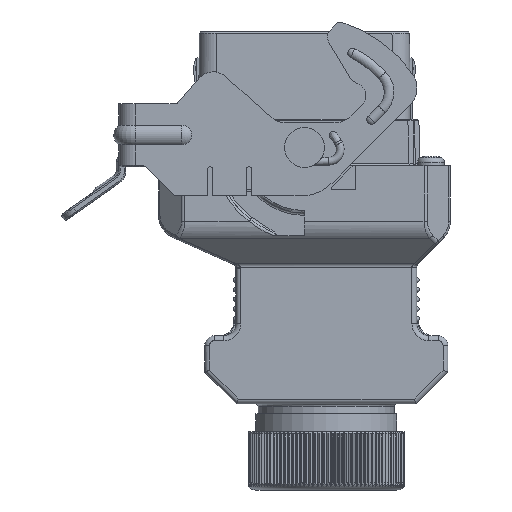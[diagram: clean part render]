
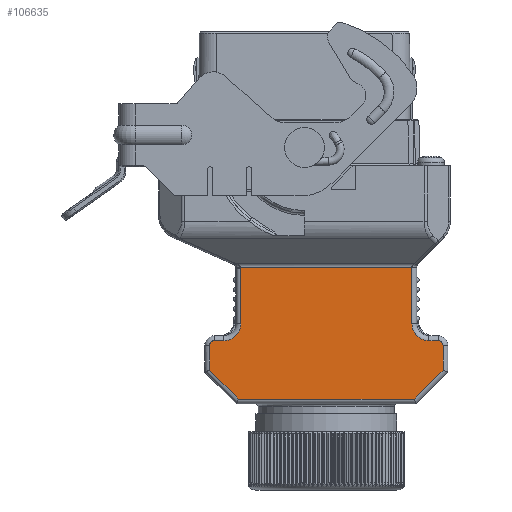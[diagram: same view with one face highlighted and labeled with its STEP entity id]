
A CAD part, front view. The second image highlights one B-rep face of the part: STEP entity #106635.
In plain terms, the highlighted planar face has unit normal (0, -1, 0).
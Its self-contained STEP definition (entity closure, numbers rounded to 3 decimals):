
#1341 = DIRECTION ( 'NONE',  ( 0., 0., -1. ) ) ;
#2073 = ORIENTED_EDGE ( 'NONE', *, *, #25516, .T. ) ;
#5650 = DIRECTION ( 'NONE',  ( 0., 0., -1. ) ) ;
#6090 = ORIENTED_EDGE ( 'NONE', *, *, #73304, .T. ) ;
#6415 = CARTESIAN_POINT ( 'NONE',  ( 27.5, -16., -64.5 ) ) ;
#9295 = CIRCLE ( 'NONE', #127301, 2. ) ;
#10883 = CIRCLE ( 'NONE', #38992, 3.5 ) ;
#11653 = CARTESIAN_POINT ( 'NONE',  ( -19.5, -16., -69.586 ) ) ;
#12391 = CARTESIAN_POINT ( 'NONE',  ( 22.586, -16., -75.5 ) ) ;
#12704 = AXIS2_PLACEMENT_3D ( 'NONE', #6415, #93084, #139784 ) ;
#15113 = CARTESIAN_POINT ( 'NONE',  ( -13.586, -16., -75.5 ) ) ;
#18253 = CIRCLE ( 'NONE', #12704, 1. ) ;
#18556 = VECTOR ( 'NONE', #66779, 1000. ) ;
#19211 = LINE ( 'NONE', #73458, #42892 ) ;
#19270 = EDGE_CURVE ( 'NONE', #88183, #133837, #9295, .T. ) ;
#20602 = CARTESIAN_POINT ( 'NONE',  ( -19.5, -16., -64.5 ) ) ;
#21284 = CARTESIAN_POINT ( 'NONE',  ( -19.5, -16., -70. ) ) ;
#22349 = CARTESIAN_POINT ( 'NONE',  ( -13.1, -16., -48.652 ) ) ;
#24819 = VERTEX_POINT ( 'NONE', #15113 ) ;
#24853 = VECTOR ( 'NONE', #28014, 1000. ) ;
#25516 = EDGE_CURVE ( 'NONE', #101120, #100735, #115963, .T. ) ;
#27318 = CARTESIAN_POINT ( 'NONE',  ( 29.343, -16., -68.743 ) ) ;
#27326 = AXIS2_PLACEMENT_3D ( 'NONE', #44558, #73804, #52601 ) ;
#28014 = DIRECTION ( 'NONE',  ( 1., 0., 0. ) ) ;
#28707 = DIRECTION ( 'NONE',  ( 0.707, 0., 0.707 ) ) ;
#29312 = VERTEX_POINT ( 'NONE', #99841 ) ;
#29866 = VERTEX_POINT ( 'NONE', #11653 ) ;
#30154 = EDGE_LOOP ( 'NONE', ( #31475, #136021, #84852, #132778, #136579, #45702, #124258, #103025, #2073, #69488, #134786, #55045, #62827, #101938, #73748, #6090 ) ) ;
#31346 = DIRECTION ( 'NONE',  ( 0., 0., 1. ) ) ;
#31475 = ORIENTED_EDGE ( 'NONE', *, *, #140288, .T. ) ;
#33086 = PLANE ( 'NONE',  #83705 ) ;
#34611 = EDGE_CURVE ( 'NONE', #108050, #77253, #134180, .T. ) ;
#36078 = CARTESIAN_POINT ( 'NONE',  ( 25.6, -16., -63.5 ) ) ;
#36909 = CARTESIAN_POINT ( 'NONE',  ( 22.1, -16., -48.406 ) ) ;
#37144 = CARTESIAN_POINT ( 'NONE',  ( -18.5, -16., -64.5 ) ) ;
#37431 = VECTOR ( 'NONE', #137107, 1000. ) ;
#37476 = CARTESIAN_POINT ( 'NONE',  ( -14.1, -16., -48.406 ) ) ;
#37606 = EDGE_CURVE ( 'NONE', #29312, #133438, #18253, .T. ) ;
#37726 = CARTESIAN_POINT ( 'NONE',  ( -13.115, -16., -48.406 ) ) ;
#38992 = AXIS2_PLACEMENT_3D ( 'NONE', #101050, #89302, #112790 ) ;
#39404 = DIRECTION ( 'NONE',  ( -1., 0., 0. ) ) ;
#40246 = CARTESIAN_POINT ( 'NONE',  ( -15.1, -16., -48.652 ) ) ;
#42681 = LINE ( 'NONE', #21284, #73066 ) ;
#42892 = VECTOR ( 'NONE', #31346, 1000. ) ;
#43113 = DIRECTION ( 'NONE',  ( 0., 0., -1. ) ) ;
#44025 = LINE ( 'NONE', #36078, #18556 ) ;
#44153 = VERTEX_POINT ( 'NONE', #22349 ) ;
#44558 = CARTESIAN_POINT ( 'NONE',  ( 25.6, -16., -60. ) ) ;
#45702 = ORIENTED_EDGE ( 'NONE', *, *, #97732, .T. ) ;
#47030 = FACE_OUTER_BOUND ( 'NONE', #30154, .T. ) ;
#52601 = DIRECTION ( 'NONE',  ( 0., 0., -1. ) ) ;
#53053 = CARTESIAN_POINT ( 'NONE',  ( 27.5, -16., -63.5 ) ) ;
#55045 = ORIENTED_EDGE ( 'NONE', *, *, #129363, .T. ) ;
#56600 = VECTOR ( 'NONE', #39404, 1000. ) ;
#57672 = CIRCLE ( 'NONE', #27326, 3.5 ) ;
#59820 = VERTEX_POINT ( 'NONE', #139149 ) ;
#60461 = EDGE_CURVE ( 'NONE', #59820, #108050, #127652, .T. ) ;
#61570 = CARTESIAN_POINT ( 'NONE',  ( 22.1, -16., -48.41 ) ) ;
#62827 = ORIENTED_EDGE ( 'NONE', *, *, #66960, .T. ) ;
#63327 = CARTESIAN_POINT ( 'NONE',  ( -1.743, -16., -87.343 ) ) ;
#64326 = EDGE_CURVE ( 'NONE', #113977, #59820, #10883, .T. ) ;
#66155 = LINE ( 'NONE', #82285, #37431 ) ;
#66181 = DIRECTION ( 'NONE',  ( 0., -1., 0. ) ) ;
#66779 = DIRECTION ( 'NONE',  ( -1., 0., 0. ) ) ;
#66960 = EDGE_CURVE ( 'NONE', #68124, #84055, #57672, .T. ) ;
#68124 = VERTEX_POINT ( 'NONE', #94429 ) ;
#69488 = ORIENTED_EDGE ( 'NONE', *, *, #126402, .T. ) ;
#70441 = AXIS2_PLACEMENT_3D ( 'NONE', #40246, #74719, #106864 ) ;
#70470 = DIRECTION ( 'NONE',  ( 0., 1., 0. ) ) ;
#73066 = VECTOR ( 'NONE', #43113, 1000. ) ;
#73304 = EDGE_CURVE ( 'NONE', #133837, #116141, #74255, .T. ) ;
#73458 = CARTESIAN_POINT ( 'NONE',  ( 28.5, -16., -64.5 ) ) ;
#73748 = ORIENTED_EDGE ( 'NONE', *, *, #19270, .T. ) ;
#73804 = DIRECTION ( 'NONE',  ( 0., 1., 0. ) ) ;
#74227 = DIRECTION ( 'NONE',  ( 0., 0., -1. ) ) ;
#74255 = LINE ( 'NONE', #37476, #101303 ) ;
#74719 = DIRECTION ( 'NONE',  ( 0., 1., 0. ) ) ;
#77253 = VERTEX_POINT ( 'NONE', #20602 ) ;
#78077 = VECTOR ( 'NONE', #85100, 1000. ) ;
#80608 = CARTESIAN_POINT ( 'NONE',  ( 23., -16., -75.5 ) ) ;
#82285 = CARTESIAN_POINT ( 'NONE',  ( 22.1, -16., -48. ) ) ;
#83705 = AXIS2_PLACEMENT_3D ( 'NONE', #88918, #66181, #1341 ) ;
#84055 = VERTEX_POINT ( 'NONE', #95468 ) ;
#84852 = ORIENTED_EDGE ( 'NONE', *, *, #64326, .T. ) ;
#85100 = DIRECTION ( 'NONE',  ( 0.707, 0., -0.707 ) ) ;
#87821 = AXIS2_PLACEMENT_3D ( 'NONE', #37144, #102787, #113164 ) ;
#88183 = VERTEX_POINT ( 'NONE', #61570 ) ;
#88918 = CARTESIAN_POINT ( 'NONE',  ( 23.1, -16., -62.5 ) ) ;
#89302 = DIRECTION ( 'NONE',  ( 0., 1., 0. ) ) ;
#93084 = DIRECTION ( 'NONE',  ( 0., -1., 0. ) ) ;
#94429 = CARTESIAN_POINT ( 'NONE',  ( 25.6, -16., -63.5 ) ) ;
#95468 = CARTESIAN_POINT ( 'NONE',  ( 22.1, -16., -60. ) ) ;
#95512 = EDGE_CURVE ( 'NONE', #44153, #113977, #110745, .T. ) ;
#97732 = EDGE_CURVE ( 'NONE', #77253, #29866, #42681, .T. ) ;
#99841 = CARTESIAN_POINT ( 'NONE',  ( 28.5, -16., -64.5 ) ) ;
#100735 = VERTEX_POINT ( 'NONE', #120405 ) ;
#101050 = CARTESIAN_POINT ( 'NONE',  ( -16.6, -16., -60. ) ) ;
#101120 = VERTEX_POINT ( 'NONE', #12391 ) ;
#101303 = VECTOR ( 'NONE', #113031, 1000. ) ;
#101938 = ORIENTED_EDGE ( 'NONE', *, *, #132172, .T. ) ;
#102787 = DIRECTION ( 'NONE',  ( 0., -1., 0. ) ) ;
#102853 = CIRCLE ( 'NONE', #70441, 2. ) ;
#103025 = ORIENTED_EDGE ( 'NONE', *, *, #107427, .T. ) ;
#106635 = ADVANCED_FACE ( 'NONE', ( #47030 ), #33086, .T. ) ;
#106864 = DIRECTION ( 'NONE',  ( 0., 0., -1. ) ) ;
#107427 = EDGE_CURVE ( 'NONE', #24819, #101120, #131423, .T. ) ;
#108050 = VERTEX_POINT ( 'NONE', #117641 ) ;
#110745 = LINE ( 'NONE', #115402, #139550 ) ;
#112790 = DIRECTION ( 'NONE',  ( 0., 0., -1. ) ) ;
#113031 = DIRECTION ( 'NONE',  ( -1., 0., 0. ) ) ;
#113164 = DIRECTION ( 'NONE',  ( 0., 0., -1. ) ) ;
#113977 = VERTEX_POINT ( 'NONE', #138685 ) ;
#115402 = CARTESIAN_POINT ( 'NONE',  ( -13.1, -16., -60. ) ) ;
#115963 = LINE ( 'NONE', #27318, #139624 ) ;
#116141 = VERTEX_POINT ( 'NONE', #37726 ) ;
#117641 = CARTESIAN_POINT ( 'NONE',  ( -18.5, -16., -63.5 ) ) ;
#120347 = LINE ( 'NONE', #63327, #78077 ) ;
#120405 = CARTESIAN_POINT ( 'NONE',  ( 28.5, -16., -69.586 ) ) ;
#121720 = EDGE_CURVE ( 'NONE', #29866, #24819, #120347, .T. ) ;
#124258 = ORIENTED_EDGE ( 'NONE', *, *, #121720, .T. ) ;
#126402 = EDGE_CURVE ( 'NONE', #100735, #29312, #19211, .T. ) ;
#127301 = AXIS2_PLACEMENT_3D ( 'NONE', #135298, #70470, #5650 ) ;
#127305 = CARTESIAN_POINT ( 'NONE',  ( -18.5, -16., -63.5 ) ) ;
#127652 = LINE ( 'NONE', #127305, #56600 ) ;
#129363 = EDGE_CURVE ( 'NONE', #133438, #68124, #44025, .T. ) ;
#131423 = LINE ( 'NONE', #80608, #24853 ) ;
#132172 = EDGE_CURVE ( 'NONE', #84055, #88183, #66155, .T. ) ;
#132778 = ORIENTED_EDGE ( 'NONE', *, *, #60461, .T. ) ;
#133438 = VERTEX_POINT ( 'NONE', #53053 ) ;
#133837 = VERTEX_POINT ( 'NONE', #36909 ) ;
#134180 = CIRCLE ( 'NONE', #87821, 1. ) ;
#134786 = ORIENTED_EDGE ( 'NONE', *, *, #37606, .T. ) ;
#135298 = CARTESIAN_POINT ( 'NONE',  ( 24.1, -16., -48.41 ) ) ;
#136021 = ORIENTED_EDGE ( 'NONE', *, *, #95512, .T. ) ;
#136579 = ORIENTED_EDGE ( 'NONE', *, *, #34611, .T. ) ;
#137107 = DIRECTION ( 'NONE',  ( 0., 0., 1. ) ) ;
#138685 = CARTESIAN_POINT ( 'NONE',  ( -13.1, -16., -60. ) ) ;
#139149 = CARTESIAN_POINT ( 'NONE',  ( -16.6, -16., -63.5 ) ) ;
#139550 = VECTOR ( 'NONE', #74227, 1000. ) ;
#139624 = VECTOR ( 'NONE', #28707, 1000. ) ;
#139784 = DIRECTION ( 'NONE',  ( 0., 0., -1. ) ) ;
#140288 = EDGE_CURVE ( 'NONE', #116141, #44153, #102853, .T. ) ;
